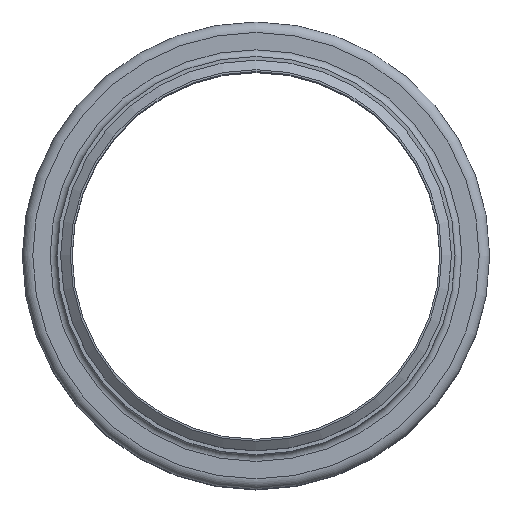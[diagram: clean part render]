
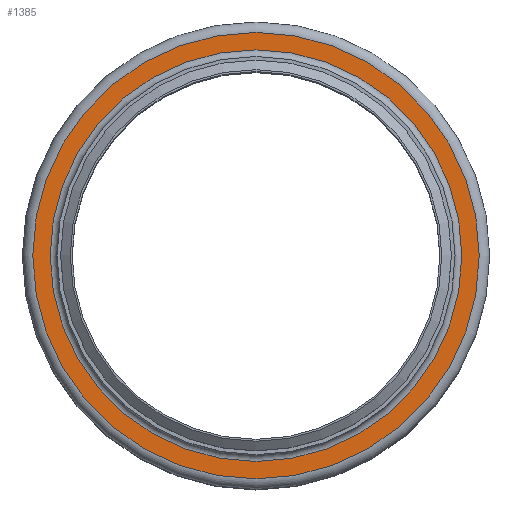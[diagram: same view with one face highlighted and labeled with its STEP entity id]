
A CAD part, top view. The second image highlights one B-rep face of the part: STEP entity #1385.
In plain terms, the highlighted planar face has unit normal (0, 0, 1).
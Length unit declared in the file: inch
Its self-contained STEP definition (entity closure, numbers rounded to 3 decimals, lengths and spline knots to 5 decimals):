
#155=FACE_BOUND('',#416,.T.);
#256=FACE_OUTER_BOUND('',#415,.T.);
#415=EDGE_LOOP('',(#1168));
#416=EDGE_LOOP('',(#1169));
#584=CIRCLE('',#1684,6.71625);
#585=CIRCLE('',#1686,7.28375);
#703=VERTEX_POINT('',#2631);
#704=VERTEX_POINT('',#2635);
#862=EDGE_CURVE('',#703,#703,#584,.T.);
#863=EDGE_CURVE('',#704,#704,#585,.T.);
#1168=ORIENTED_EDGE('',*,*,#863,.F.);
#1169=ORIENTED_EDGE('',*,*,#862,.T.);
#1284=PLANE('',#1685);
#1385=ADVANCED_FACE('',(#256,#155),#1284,.T.);
#1684=AXIS2_PLACEMENT_3D('',#2633,#2197,#2198);
#1685=AXIS2_PLACEMENT_3D('',#2634,#2199,#2200);
#1686=AXIS2_PLACEMENT_3D('',#2636,#2201,#2202);
#2197=DIRECTION('center_axis',(0.,0.,-1.));
#2198=DIRECTION('ref_axis',(1.,0.,0.));
#2199=DIRECTION('center_axis',(0.,0.,1.));
#2200=DIRECTION('ref_axis',(1.,0.,0.));
#2201=DIRECTION('center_axis',(0.,0.,-1.));
#2202=DIRECTION('ref_axis',(1.,0.,0.));
#2631=CARTESIAN_POINT('',(6.71625,0.,-0.22125));
#2633=CARTESIAN_POINT('Origin',(0.,0.,-0.22125));
#2634=CARTESIAN_POINT('Origin',(0.,7.28375,-0.22125));
#2635=CARTESIAN_POINT('',(7.28375,0.,-0.22125));
#2636=CARTESIAN_POINT('Origin',(0.,0.,-0.22125));
